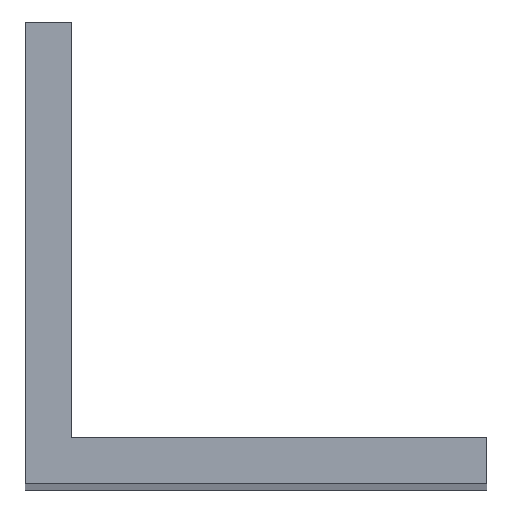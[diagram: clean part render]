
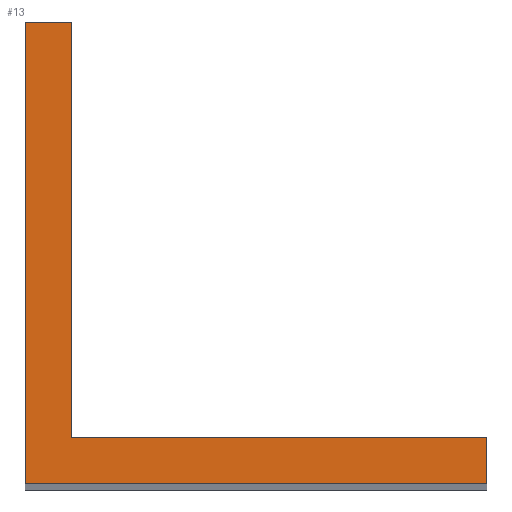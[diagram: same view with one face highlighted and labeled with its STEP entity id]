
A CAD part, top view. The second image highlights one B-rep face of the part: STEP entity #13.
In plain terms, the highlighted planar face has unit normal (0, 0, 1).
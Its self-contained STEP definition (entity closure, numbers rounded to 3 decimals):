
#13 = ADVANCED_FACE ( 'NONE', ( #270 ), #99, .F. ) ;
#14 = VERTEX_POINT ( 'NONE', #104 ) ;
#21 = ORIENTED_EDGE ( 'NONE', *, *, #31, .T. ) ;
#28 = EDGE_CURVE ( 'NONE', #14, #67, #112, .T. ) ;
#31 = EDGE_CURVE ( 'NONE', #40, #60, #131, .T. ) ;
#33 = EDGE_CURVE ( 'NONE', #67, #40, #141, .T. ) ;
#35 = CARTESIAN_POINT ( 'NONE',  ( -4., -4., 150. ) ) ;
#38 = EDGE_CURVE ( 'NONE', #60, #68, #44, .T. ) ;
#39 = EDGE_CURVE ( 'NONE', #71, #14, #151, .T. ) ;
#40 = VERTEX_POINT ( 'NONE', #155 ) ;
#44 = LINE ( 'NONE', #35, #225 ) ;
#49 = DIRECTION ( 'NONE',  ( 1., 0., 0. ) ) ;
#58 = EDGE_CURVE ( 'NONE', #68, #71, #166, .T. ) ;
#60 = VERTEX_POINT ( 'NONE', #170 ) ;
#67 = VERTEX_POINT ( 'NONE', #178 ) ;
#68 = VERTEX_POINT ( 'NONE', #179 ) ;
#70 = ORIENTED_EDGE ( 'NONE', *, *, #58, .T. ) ;
#71 = VERTEX_POINT ( 'NONE', #180 ) ;
#83 = ORIENTED_EDGE ( 'NONE', *, *, #28, .T. ) ;
#92 = EDGE_LOOP ( 'NONE', ( #254, #83, #275, #21, #263, #70 ) ) ;
#99 = PLANE ( 'NONE',  #106 ) ;
#100 = CARTESIAN_POINT ( 'NONE',  ( 0., 0., 150. ) ) ;
#102 = DIRECTION ( 'NONE',  ( 0., 0., -1. ) ) ;
#103 = DIRECTION ( 'NONE',  ( -1., 0., 0. ) ) ;
#104 = CARTESIAN_POINT ( 'NONE',  ( 0., 0., 150. ) ) ;
#106 = AXIS2_PLACEMENT_3D ( 'NONE', #100, #102, #103 ) ;
#112 = LINE ( 'NONE', #114, #286 ) ;
#114 = CARTESIAN_POINT ( 'NONE',  ( 0., 0., 150. ) ) ;
#116 = DIRECTION ( 'NONE',  ( 0., 1., 0. ) ) ;
#131 = LINE ( 'NONE', #133, #266 ) ;
#133 = CARTESIAN_POINT ( 'NONE',  ( -4., 36., 150. ) ) ;
#134 = DIRECTION ( 'NONE',  ( 0., -1., 0. ) ) ;
#141 = LINE ( 'NONE', #144, #303 ) ;
#144 = CARTESIAN_POINT ( 'NONE',  ( 0., 36., 150. ) ) ;
#147 = DIRECTION ( 'NONE',  ( -1., 0., 0. ) ) ;
#151 = LINE ( 'NONE', #152, #208 ) ;
#152 = CARTESIAN_POINT ( 'NONE',  ( 36., 0., 150. ) ) ;
#154 = DIRECTION ( 'NONE',  ( -1., 0., 0. ) ) ;
#155 = CARTESIAN_POINT ( 'NONE',  ( -4., 36., 150. ) ) ;
#166 = LINE ( 'NONE', #167, #242 ) ;
#167 = CARTESIAN_POINT ( 'NONE',  ( 36., -4., 150. ) ) ;
#168 = DIRECTION ( 'NONE',  ( 0., 1., 0. ) ) ;
#170 = CARTESIAN_POINT ( 'NONE',  ( -4., -4., 150. ) ) ;
#178 = CARTESIAN_POINT ( 'NONE',  ( 0., 36., 150. ) ) ;
#179 = CARTESIAN_POINT ( 'NONE',  ( 36., -4., 150. ) ) ;
#180 = CARTESIAN_POINT ( 'NONE',  ( 36., 0., 150. ) ) ;
#208 = VECTOR ( 'NONE', #154, 1000. ) ;
#225 = VECTOR ( 'NONE', #49, 1000. ) ;
#242 = VECTOR ( 'NONE', #168, 1000. ) ;
#254 = ORIENTED_EDGE ( 'NONE', *, *, #39, .T. ) ;
#263 = ORIENTED_EDGE ( 'NONE', *, *, #38, .T. ) ;
#266 = VECTOR ( 'NONE', #134, 1000. ) ;
#270 = FACE_OUTER_BOUND ( 'NONE', #92, .T. ) ;
#275 = ORIENTED_EDGE ( 'NONE', *, *, #33, .T. ) ;
#286 = VECTOR ( 'NONE', #116, 1000. ) ;
#303 = VECTOR ( 'NONE', #147, 1000. ) ;
